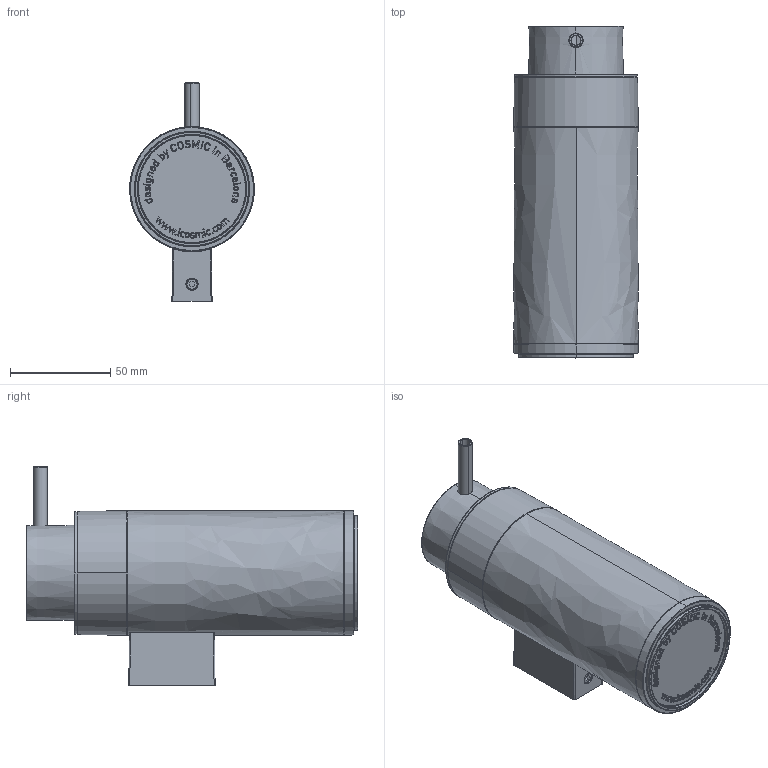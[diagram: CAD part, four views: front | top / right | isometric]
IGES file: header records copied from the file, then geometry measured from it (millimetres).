
Start section: SolidWorks IGES file using analytic representation for surfaces
Global section: file name: G:\Projects\New project\For Marketing\IGS\IGS\2015-10-22\2510105VW.IGS; native system: SolidWorks 2010; preprocessor: SolidWorks 2010; author: linda; date: 151013.102726; units: millimetre
Bounding box: 62.19 x 165.5 x 109 mm (x, y, z)
Surface area: 49153.1 mm2 (no closed solid volume)
Topology: 0 solids, 0 shells, 559 faces, 6744 edges, 6742 vertices
Faces by surface type: bspline 479, revolution 80
